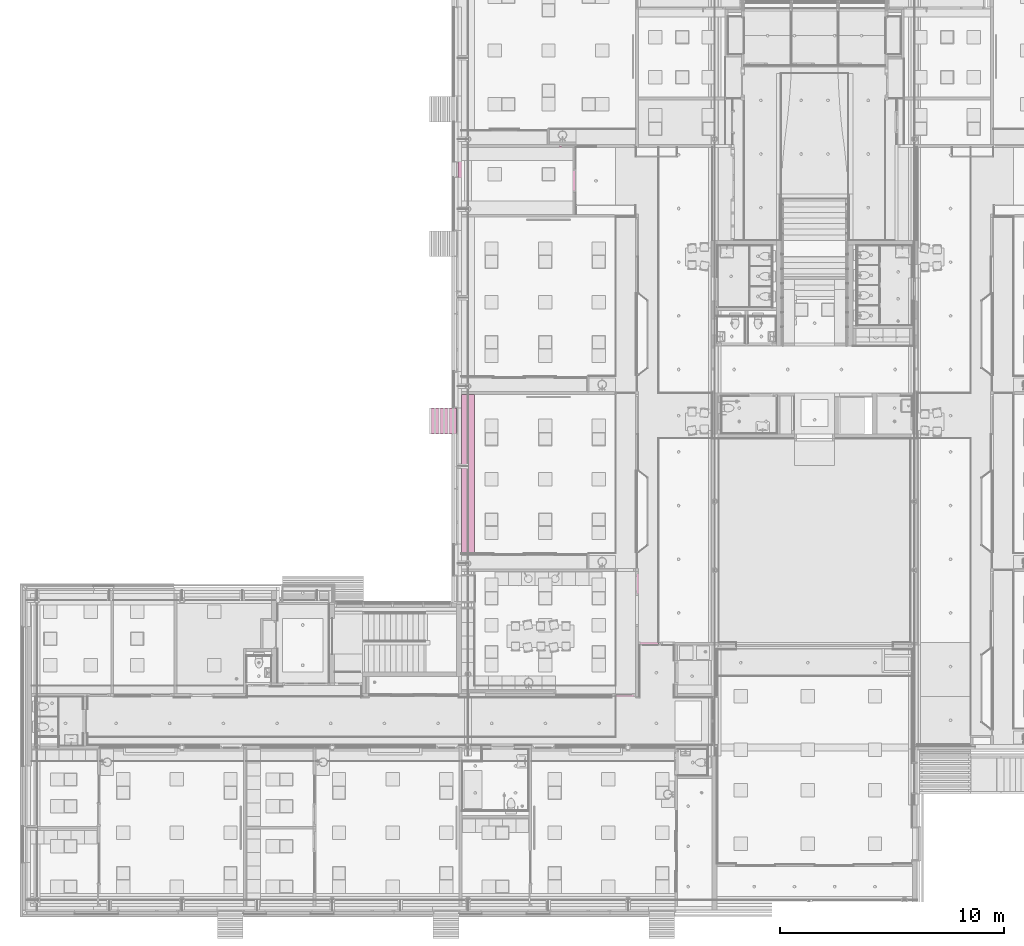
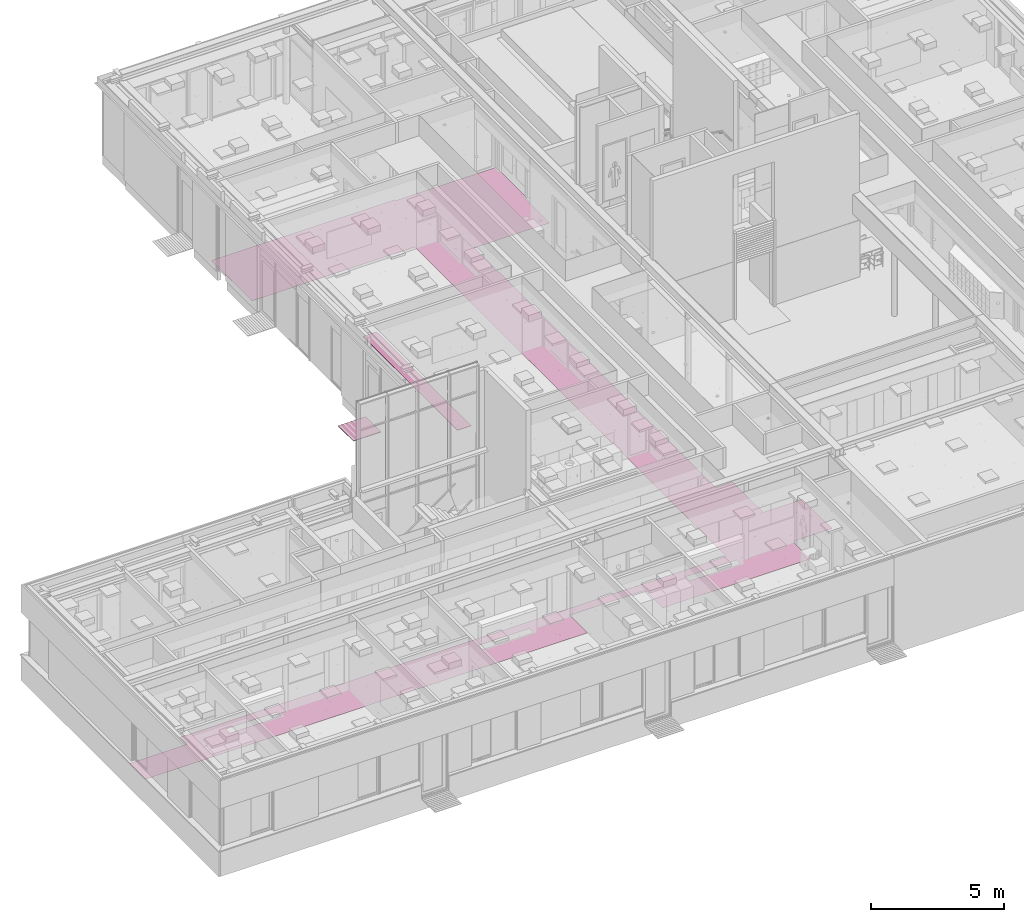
# One storey, part 321 of 347: 3 furnishings.
"""IFC2X3 building model written with IfcOpenShell, lengths in millimetres."""

from ifc_helpers import new_model, entity, si_unit, converted_unit, derived_unit, money_unit, direction, frame, origin_with_axes, place, context, subcontext, project, spatial, faceted_brep, material, type_object, element, save


model = new_model("IFC2X3")

# Units and contexts
model_context = context("Model", 3, precision=0.01, world=origin_with_axes(), true_north=direction((0.0, 1.0)))
plan_context = context("Plan", 3, precision=0.01, world=origin_with_axes(), true_north=direction((0.0, 1.0)))
body_context = subcontext(model_context, "Body", "Model", "MODEL_VIEW")
ifc_project = project(units=[si_unit("LENGTHUNIT", "METRE", prefix="MILLI"), si_unit("AREAUNIT", "SQUARE_METRE"), si_unit("VOLUMEUNIT", "CUBIC_METRE"), converted_unit("PLANEANGLEUNIT", "DEGREE", entity("IfcPlaneAngleMeasure", 0.0174532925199), si_unit("PLANEANGLEUNIT", "RADIAN"), dimensions=[0, 0, 0, 0, 0, 0, 0]), money_unit("EUR"), converted_unit("TIMEUNIT", "Year", entity("IfcTimeMeasure", 31556926.0), si_unit("TIMEUNIT", "SECOND"), dimensions=[0, 0, 1, 0, 0, 0, 0]), si_unit("MASSUNIT", "GRAM", prefix="KILO"), si_unit("THERMODYNAMICTEMPERATUREUNIT", "DEGREE_CELSIUS"), si_unit("LUMINOUSINTENSITYUNIT", "LUMEN"), si_unit("ENERGYUNIT", "JOULE", prefix="MEGA"), derived_unit("THERMALCONDUCTANCEUNIT", [(si_unit("POWERUNIT", "WATT"), 1), (si_unit("LENGTHUNIT", "METRE"), -1), (si_unit("THERMODYNAMICTEMPERATUREUNIT", "KELVIN"), -1)]), derived_unit("SPECIFICHEATCAPACITYUNIT", [(si_unit("ENERGYUNIT", "JOULE"), 1), (si_unit("MASSUNIT", "GRAM", prefix="KILO"), -1), (si_unit("THERMODYNAMICTEMPERATUREUNIT", "KELVIN"), -1)]), derived_unit("MASSDENSITYUNIT", [(si_unit("MASSUNIT", "GRAM", prefix="KILO"), 1), (si_unit("VOLUMEUNIT", "CUBIC_METRE"), -1)])], contexts=[model_context, plan_context])

# Site, building, storey
site_placement = place(None, origin_with_axes())
site = spatial("IfcSite", under=ifc_project, at=site_placement, Name="Site", CompositionType="ELEMENT")
building_placement = place(site_placement, origin_with_axes())
building = spatial("IfcBuilding", under=site, at=building_placement, Name="Naam gebouw", CompositionType="ELEMENT")
storey_placement = place(building_placement, origin_with_axes())
storey = spatial("IfcBuildingStorey", under=building, at=storey_placement, Name="begane grond", CompositionType="ELEMENT", Elevation=0.0)

# Furnishings
ifc_material_1 = material(Name="ALG - LICHTE SCHEIDINGSWAND")
furniture_type_1 = type_object("IfcFurnitureType", Name="44 koof plaf 50", AssemblyPlace="NOTDEFINED")
furnishing_1_placement = place(storey_placement, frame((24275.0, 20812.5, 3200.0), z_axis=(0.0, 0.0, 1.0), x_axis=(1.0, 0.0, 0.0)))
element("IfcFurnishingElement", 1, at=furnishing_1_placement, inside=storey, type_object=furniture_type_1, material=ifc_material_1, Name="72_75 vaste inrichting", ObjectType="SHELF", context=body_context, shape_type="Brep", body=[
    faceted_brep([(0.0, 0.0, 12.0), (0.0, 0.0, 0.0), (600.0, 0.0, 0.0), (600.0, 0.0, 12.0), (0.0, 7100.0, 12.0), (0.0, 7100.0, 0.0), (600.0, 7100.0, 0.0), (600.0, 7100.0, 12.0)], [[[0, 1, 2, 3]], [[4, 5, 1, 0]], [[2, 1, 5, 6]], [[3, 2, 6, 7]], [[4, 0, 3, 7]], [[7, 6, 5, 4]]]),
])
ifc_material_2 = material(Name="Metaal - Aluminium")
furniture_type_2 = type_object("IfcFurnitureType", Name="Metaal - Aluminium 25", AssemblyPlace="NOTDEFINED")
furnishing_2_placement = place(storey_placement, frame((24053.0, 26149.5, -15.0), z_axis=(0.0, 0.0, 1.0), x_axis=(1.0, 0.0, 0.0)))
element("IfcFurnishingElement", 2, at=furnishing_2_placement, inside=storey, type_object=furniture_type_2, material=ifc_material_2, Name="72_43 schoonloop zone 1", ObjectType="SHELF", context=body_context, shape_type="Brep", body=[
    faceted_brep([(0.0, 0.0, 0.0), (0.0, 0.0, -25.0), (0.0, 1150.0, -25.0), (0.0, 1150.0, 0.0), (-1199.99997171, 0.0, 0.0), (-1199.99997171, 0.0, -25.0), (-1199.99997171, 1150.0, -25.0), (-1199.99997171, 1150.0, 0.0)], [[[0, 1, 2, 3]], [[4, 5, 1, 0]], [[2, 1, 5, 6]], [[3, 2, 6, 7]], [[4, 0, 3, 7]], [[7, 6, 5, 4]]]),
])
ifc_material_3 = material(Name="43 Fresco Moonstone 3883")
furniture_type_3 = type_object("IfcFurnitureType", Name="43 Fresco Moonstone 3883 2", AssemblyPlace="NOTDEFINED")
furnishing_3_placement = place(storey_placement, frame((7499.9999823, 12062.5, 0.0), z_axis=(0.0, 0.0, 1.0), x_axis=(1.0, 0.0, 0.0)))
element("IfcFurnishingElement", 3, at=furnishing_3_placement, inside=storey, type_object=furniture_type_3, material=ifc_material_3, Name="72_43 marmoleum", ObjectType="SHELF", context=body_context, shape_type="Brep", body=[
    faceted_brep([(0.0, 0.0, 2.0), (0.0, 0.0, 0.0), (-2499.99998231, 0.0, 0.0), (-2499.99998231, 0.0, 2.0), (1.76949797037e-05, 537.5, 2.0), (1.76949797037e-05, 537.5, 0.0), (23675.0000562, 537.5, 0.0), (23675.0000562, 23899.9999647, 0.0), (16625.0000177, 23899.9999647, 0.0), (16625.0000177, 26960.0, 0.0), (24575.0000177, 26960.0, 0.0), (24575.0000177, 26900.0, 0.0), (28932.0000177, 26900.0, 0.0), (28932.0000177, 24592.9999802, 0.0), (28850.0000177, 24592.9999802, 0.0), (28850.0000177, 22737.5, 0.0), (25594.9998713, 22737.5, 0.0), (25594.9998713, 4630.5, 0.0), (26325.0000177, 4630.5, 0.0), (26325.0000177, 2337.5, 0.0), (28028.0000177, 2337.5, 0.0), (28028.0000177, 125.0, 0.0), (26325.0000177, 125.0, 0.0), (26325.0000177, -1200.0, 0.0), (19925.0000177, -1200.0, 0.0), (19925.0000177, 125.0, 0.0), (16675.0000177, 125.0, 0.0), (16675.0000177, -1200.0, 0.0), (-2499.99998231, -1200.0, 0.0), (21689.0000177, -168.000013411, 0.0), (23889.0000311, -168.000013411, 0.0), (23889.0000311, 132.000008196, 0.0), (21689.0000177, 132.000008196, 0.0), (12711.0000177, -168.000013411, 0.0), (14911.0000311, -168.000013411, 0.0), (14911.0000311, 132.0, 0.0), (12711.0000177, 132.0, 0.0), (1765.0000177, -168.000013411, 0.0), (3965.00003111, -168.000013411, 0.0), (3965.00003111, 132.000008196, 0.0), (1765.0000177, 132.000008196, 0.0), (-2499.99998231, -1200.0, 2.0), (16675.0000177, -1200.0, 2.0), (16675.0000177, 125.0, 2.0), (19925.0000177, 125.0, 2.0), (19925.0000177, -1200.0, 2.0), (26325.0000177, -1200.0, 2.0), (26325.0000177, 125.0, 2.0), (28028.0000177, 125.0, 2.0), (28028.0000177, 2337.5, 2.0), (26325.0000177, 2337.5, 2.0), (26325.0000177, 4630.5, 2.0), (25594.9998713, 4630.5, 2.0), (25594.9998713, 22737.5, 2.0), (28850.0000177, 22737.5, 2.0), (28850.0000177, 24592.9999802, 2.0), (28932.0000177, 24592.9999802, 2.0), (28932.0000177, 26900.0, 2.0), (24575.0000177, 26900.0, 2.0), (24575.0000177, 26960.0, 2.0), (16625.0000177, 26960.0, 2.0), (16625.0000177, 23899.9999647, 2.0), (23675.0000562, 23899.9999647, 2.0), (23675.0000562, 537.5, 2.0), (23889.0000311, 132.000008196, 2.0), (23889.0000311, -168.000013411, 2.0), (21689.0000177, -168.000013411, 2.0), (21689.0000177, 132.000008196, 2.0), (14911.0000311, 132.0, 2.0), (14911.0000311, -168.000013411, 2.0), (12711.0000177, -168.000013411, 2.0), (12711.0000177, 132.0, 2.0), (3965.00003111, 132.000008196, 2.0), (3965.00003111, -168.000013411, 2.0), (1765.0000177, -168.000013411, 2.0), (1765.0000177, 132.000008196, 2.0)], [[[0, 1, 2, 3]], [[4, 5, 1, 0]], [[2, 1, 5, 6, 7, 8, 9, 10, 11, 12, 13, 14, 15, 16, 17, 18, 19, 20, 21, 22, 23, 24, 25, 26, 27, 28], [29, 30, 31, 32], [33, 34, 35, 36], [37, 38, 39, 40]], [[3, 2, 28, 41]], [[4, 0, 3, 41, 42, 43, 44, 45, 46, 47, 48, 49, 50, 51, 52, 53, 54, 55, 56, 57, 58, 59, 60, 61, 62, 63], [64, 65, 66, 67], [68, 69, 70, 71], [72, 73, 74, 75]], [[63, 6, 5, 4]], [[62, 7, 6, 63]], [[61, 8, 7, 62]], [[60, 9, 8, 61]], [[59, 10, 9, 60]], [[58, 11, 10, 59]], [[57, 12, 11, 58]], [[56, 13, 12, 57]], [[55, 14, 13, 56]], [[54, 15, 14, 55]], [[53, 16, 15, 54]], [[52, 17, 16, 53]], [[51, 18, 17, 52]], [[50, 19, 18, 51]], [[49, 20, 19, 50]], [[48, 21, 20, 49]], [[47, 22, 21, 48]], [[46, 23, 22, 47]], [[45, 24, 23, 46]], [[44, 25, 24, 45]], [[43, 26, 25, 44]], [[42, 27, 26, 43]], [[41, 28, 27, 42]], [[65, 30, 29, 66]], [[64, 31, 30, 65]], [[67, 32, 31, 64]], [[66, 29, 32, 67]], [[69, 34, 33, 70]], [[68, 35, 34, 69]], [[71, 36, 35, 68]], [[70, 33, 36, 71]], [[73, 38, 37, 74]], [[72, 39, 38, 73]], [[75, 40, 39, 72]], [[74, 37, 40, 75]]]),
])

save(model, "model.ifc")
